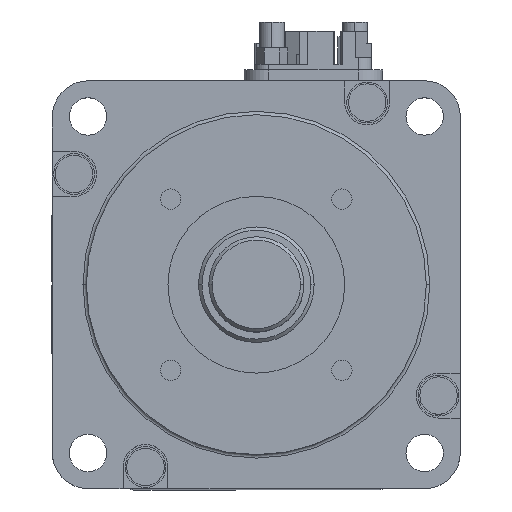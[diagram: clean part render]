
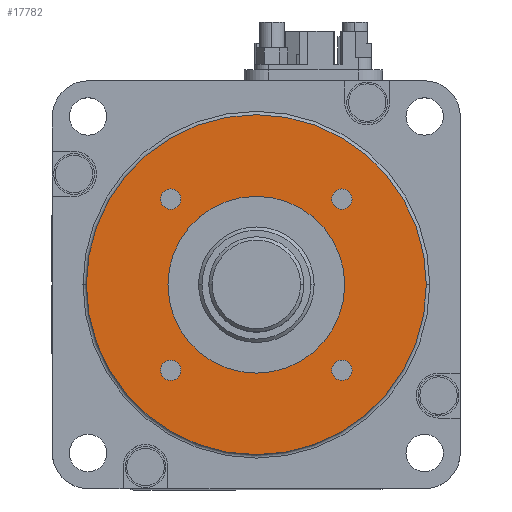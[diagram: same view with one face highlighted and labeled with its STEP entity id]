
A CAD part, top view. The second image highlights one B-rep face of the part: STEP entity #17782.
In plain terms, the highlighted planar face has unit normal (0, 0, 1).
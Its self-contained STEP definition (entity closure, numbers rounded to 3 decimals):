
#236 = CIRCLE ( 'NONE', #13955, 25. ) ;
#241 = DIRECTION ( 'NONE',  ( 0., 0., 1. ) ) ;
#310 = DIRECTION ( 'NONE',  ( 1., 0., 0. ) ) ;
#421 = CIRCLE ( 'NONE', #1513, 1.5 ) ;
#948 = DIRECTION ( 'NONE',  ( 1., 0., 0. ) ) ;
#980 = CIRCLE ( 'NONE', #19821, 1.5 ) ;
#1172 = CARTESIAN_POINT ( 'NONE',  ( -14.087, -12.587, 3. ) ) ;
#1238 = CIRCLE ( 'NONE', #5370, 13. ) ;
#1364 = EDGE_CURVE ( 'NONE', #6178, #15457, #10857, .T. ) ;
#1474 = ORIENTED_EDGE ( 'NONE', *, *, #14642, .F. ) ;
#1513 = AXIS2_PLACEMENT_3D ( 'NONE', #8712, #19523, #10281 ) ;
#1798 = CARTESIAN_POINT ( 'NONE',  ( -12.587, -12.587, 3. ) ) ;
#2120 = EDGE_LOOP ( 'NONE', ( #13972, #6820 ) ) ;
#2135 = CARTESIAN_POINT ( 'NONE',  ( 13., 0., 3. ) ) ;
#2189 = AXIS2_PLACEMENT_3D ( 'NONE', #16849, #7623, #18430 ) ;
#2228 = AXIS2_PLACEMENT_3D ( 'NONE', #1798, #12547, #3355 ) ;
#2577 = CIRCLE ( 'NONE', #9782, 1.5 ) ;
#2818 = CIRCLE ( 'NONE', #2228, 1.5 ) ;
#2960 = DIRECTION ( 'NONE',  ( 0., 0., 1. ) ) ;
#3088 = EDGE_CURVE ( 'NONE', #17698, #19320, #236, .T. ) ;
#3102 = CARTESIAN_POINT ( 'NONE',  ( -12.587, 12.587, 3. ) ) ;
#3355 = DIRECTION ( 'NONE',  ( 1., 0., 0. ) ) ;
#3453 = CARTESIAN_POINT ( 'NONE',  ( 0., 0., 3. ) ) ;
#3836 = DIRECTION ( 'NONE',  ( 0., 0., 1. ) ) ;
#3875 = FACE_BOUND ( 'NONE', #10749, .T. ) ;
#3900 = CARTESIAN_POINT ( 'NONE',  ( 12.587, 12.587, 3. ) ) ;
#3931 = ORIENTED_EDGE ( 'NONE', *, *, #1364, .F. ) ;
#4145 = ORIENTED_EDGE ( 'NONE', *, *, #4223, .F. ) ;
#4223 = EDGE_CURVE ( 'NONE', #12275, #7845, #2577, .T. ) ;
#4323 = EDGE_LOOP ( 'NONE', ( #5450, #10773 ) ) ;
#4349 = EDGE_CURVE ( 'NONE', #8403, #12812, #2818, .T. ) ;
#4374 = FACE_BOUND ( 'NONE', #15702, .T. ) ;
#4480 = ORIENTED_EDGE ( 'NONE', *, *, #9073, .F. ) ;
#4633 = DIRECTION ( 'NONE',  ( 1., 0., 0. ) ) ;
#4727 = CARTESIAN_POINT ( 'NONE',  ( 25., 0., 3. ) ) ;
#4772 = VERTEX_POINT ( 'NONE', #5360 ) ;
#4975 = DIRECTION ( 'NONE',  ( 1., 0., 0. ) ) ;
#5360 = CARTESIAN_POINT ( 'NONE',  ( 11.087, 12.587, 3. ) ) ;
#5370 = AXIS2_PLACEMENT_3D ( 'NONE', #12153, #2960, #13686 ) ;
#5425 = DIRECTION ( 'NONE',  ( 1., 0., 0. ) ) ;
#5450 = ORIENTED_EDGE ( 'NONE', *, *, #9191, .F. ) ;
#6122 = EDGE_CURVE ( 'NONE', #6321, #16808, #9239, .T. ) ;
#6178 = VERTEX_POINT ( 'NONE', #11867 ) ;
#6321 = VERTEX_POINT ( 'NONE', #12212 ) ;
#6584 = DIRECTION ( 'NONE',  ( 1., 0., 0. ) ) ;
#6796 = ORIENTED_EDGE ( 'NONE', *, *, #3088, .T. ) ;
#6820 = ORIENTED_EDGE ( 'NONE', *, *, #18320, .F. ) ;
#7184 = CIRCLE ( 'NONE', #16859, 25. ) ;
#7398 = CIRCLE ( 'NONE', #17664, 1.5 ) ;
#7613 = CARTESIAN_POINT ( 'NONE',  ( 14.087, 12.587, 3. ) ) ;
#7623 = DIRECTION ( 'NONE',  ( 0., 0., 1. ) ) ;
#7815 = DIRECTION ( 'NONE',  ( 0., 0., 1. ) ) ;
#7845 = VERTEX_POINT ( 'NONE', #18709 ) ;
#7940 = FACE_BOUND ( 'NONE', #4323, .T. ) ;
#8041 = EDGE_CURVE ( 'NONE', #4772, #17844, #7398, .T. ) ;
#8199 = CIRCLE ( 'NONE', #2189, 1.5 ) ;
#8229 = ORIENTED_EDGE ( 'NONE', *, *, #9848, .T. ) ;
#8403 = VERTEX_POINT ( 'NONE', #17289 ) ;
#8627 = CARTESIAN_POINT ( 'NONE',  ( 12.587, -12.587, 3. ) ) ;
#8712 = CARTESIAN_POINT ( 'NONE',  ( -12.587, -12.587, 3. ) ) ;
#9073 = EDGE_CURVE ( 'NONE', #16808, #6321, #1238, .T. ) ;
#9191 = EDGE_CURVE ( 'NONE', #17844, #4772, #980, .T. ) ;
#9239 = CIRCLE ( 'NONE', #10762, 13. ) ;
#9418 = CARTESIAN_POINT ( 'NONE',  ( 0., 0., 3. ) ) ;
#9434 = PLANE ( 'NONE',  #13346 ) ;
#9503 = DIRECTION ( 'NONE',  ( 0., 0., 1. ) ) ;
#9782 = AXIS2_PLACEMENT_3D ( 'NONE', #3102, #13835, #4633 ) ;
#9848 = EDGE_CURVE ( 'NONE', #19320, #17698, #7184, .T. ) ;
#10067 = DIRECTION ( 'NONE',  ( 0., 0., 1. ) ) ;
#10164 = DIRECTION ( 'NONE',  ( 0., 0., 1. ) ) ;
#10281 = DIRECTION ( 'NONE',  ( 1., 0., 0. ) ) ;
#10749 = EDGE_LOOP ( 'NONE', ( #4480, #15153 ) ) ;
#10762 = AXIS2_PLACEMENT_3D ( 'NONE', #19399, #10164, #948 ) ;
#10773 = ORIENTED_EDGE ( 'NONE', *, *, #8041, .F. ) ;
#10791 = EDGE_CURVE ( 'NONE', #15457, #6178, #17527, .T. ) ;
#10857 = CIRCLE ( 'NONE', #15694, 1.5 ) ;
#11000 = DIRECTION ( 'NONE',  ( 1., 0., 0. ) ) ;
#11867 = CARTESIAN_POINT ( 'NONE',  ( 11.087, -12.587, 3. ) ) ;
#12061 = FACE_BOUND ( 'NONE', #18875, .T. ) ;
#12153 = CARTESIAN_POINT ( 'NONE',  ( 0., 0., 3. ) ) ;
#12212 = CARTESIAN_POINT ( 'NONE',  ( -13., 0., 3. ) ) ;
#12275 = VERTEX_POINT ( 'NONE', #19869 ) ;
#12402 = AXIS2_PLACEMENT_3D ( 'NONE', #13022, #3836, #14570 ) ;
#12547 = DIRECTION ( 'NONE',  ( 0., 0., 1. ) ) ;
#12812 = VERTEX_POINT ( 'NONE', #1172 ) ;
#12998 = FACE_BOUND ( 'NONE', #2120, .T. ) ;
#13022 = CARTESIAN_POINT ( 'NONE',  ( 12.587, -12.587, 3. ) ) ;
#13124 = CARTESIAN_POINT ( 'NONE',  ( -25., 0., 3. ) ) ;
#13313 = EDGE_LOOP ( 'NONE', ( #8229, #6796 ) ) ;
#13346 = AXIS2_PLACEMENT_3D ( 'NONE', #3453, #14191, #4975 ) ;
#13686 = DIRECTION ( 'NONE',  ( 1., 0., 0. ) ) ;
#13835 = DIRECTION ( 'NONE',  ( 0., 0., 1. ) ) ;
#13955 = AXIS2_PLACEMENT_3D ( 'NONE', #9418, #241, #11000 ) ;
#13972 = ORIENTED_EDGE ( 'NONE', *, *, #4349, .F. ) ;
#14191 = DIRECTION ( 'NONE',  ( 0., 0., 1. ) ) ;
#14570 = DIRECTION ( 'NONE',  ( 1., 0., 0. ) ) ;
#14623 = DIRECTION ( 'NONE',  ( 0., 0., 1. ) ) ;
#14642 = EDGE_CURVE ( 'NONE', #7845, #12275, #8199, .T. ) ;
#15153 = ORIENTED_EDGE ( 'NONE', *, *, #6122, .F. ) ;
#15457 = VERTEX_POINT ( 'NONE', #15478 ) ;
#15478 = CARTESIAN_POINT ( 'NONE',  ( 14.087, -12.587, 3. ) ) ;
#15694 = AXIS2_PLACEMENT_3D ( 'NONE', #8627, #10067, #6584 ) ;
#15702 = EDGE_LOOP ( 'NONE', ( #17087, #3931 ) ) ;
#16129 = FACE_OUTER_BOUND ( 'NONE', #13313, .T. ) ;
#16808 = VERTEX_POINT ( 'NONE', #2135 ) ;
#16849 = CARTESIAN_POINT ( 'NONE',  ( -12.587, 12.587, 3. ) ) ;
#16859 = AXIS2_PLACEMENT_3D ( 'NONE', #18786, #9503, #310 ) ;
#17025 = CARTESIAN_POINT ( 'NONE',  ( 12.587, 12.587, 3. ) ) ;
#17087 = ORIENTED_EDGE ( 'NONE', *, *, #10791, .F. ) ;
#17289 = CARTESIAN_POINT ( 'NONE',  ( -11.087, -12.587, 3. ) ) ;
#17527 = CIRCLE ( 'NONE', #12402, 1.5 ) ;
#17664 = AXIS2_PLACEMENT_3D ( 'NONE', #3900, #14623, #5425 ) ;
#17698 = VERTEX_POINT ( 'NONE', #4727 ) ;
#17782 = ADVANCED_FACE ( 'NONE', ( #4374, #12998, #12061, #7940, #3875, #16129 ), #9434, .T. ) ;
#17844 = VERTEX_POINT ( 'NONE', #7613 ) ;
#18320 = EDGE_CURVE ( 'NONE', #12812, #8403, #421, .T. ) ;
#18430 = DIRECTION ( 'NONE',  ( 1., 0., 0. ) ) ;
#18614 = DIRECTION ( 'NONE',  ( 1., 0., 0. ) ) ;
#18709 = CARTESIAN_POINT ( 'NONE',  ( -14.087, 12.587, 3. ) ) ;
#18786 = CARTESIAN_POINT ( 'NONE',  ( 0., 0., 3. ) ) ;
#18875 = EDGE_LOOP ( 'NONE', ( #4145, #1474 ) ) ;
#19320 = VERTEX_POINT ( 'NONE', #13124 ) ;
#19399 = CARTESIAN_POINT ( 'NONE',  ( 0., 0., 3. ) ) ;
#19523 = DIRECTION ( 'NONE',  ( 0., 0., 1. ) ) ;
#19821 = AXIS2_PLACEMENT_3D ( 'NONE', #17025, #7815, #18614 ) ;
#19869 = CARTESIAN_POINT ( 'NONE',  ( -11.087, 12.587, 3. ) ) ;
